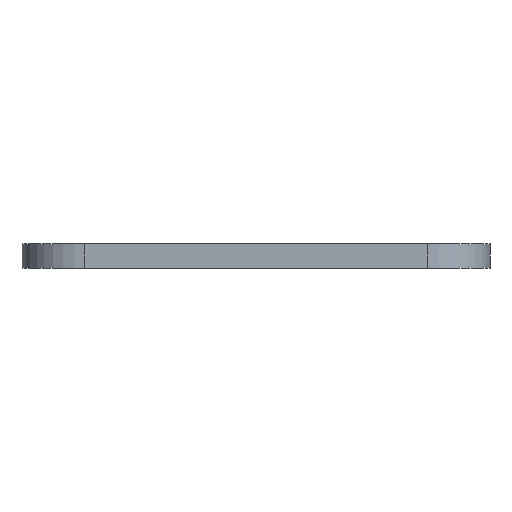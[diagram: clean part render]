
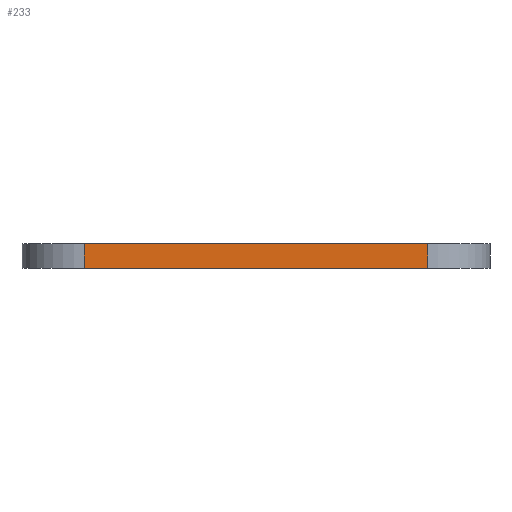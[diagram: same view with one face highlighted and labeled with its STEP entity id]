
A CAD part, front view. The second image highlights one B-rep face of the part: STEP entity #233.
In plain terms, the highlighted planar face has unit normal (0, -1, 0).
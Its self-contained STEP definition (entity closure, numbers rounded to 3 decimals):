
#14 = CARTESIAN_POINT ( 'NONE',  ( -35., 0., 4. ) ) ;
#56 = DIRECTION ( 'NONE',  ( 1., 0., 0. ) ) ;
#57 = VECTOR ( 'NONE', #56, 1000. ) ;
#71 = LINE ( 'NONE', #14, #57 ) ;
#124 = VERTEX_POINT ( 'NONE', #398 ) ;
#144 = VERTEX_POINT ( 'NONE', #568 ) ;
#149 = VERTEX_POINT ( 'NONE', #531 ) ;
#162 = EDGE_CURVE ( 'NONE', #149, #192, #71, .T. ) ;
#192 = VERTEX_POINT ( 'NONE', #599 ) ;
#203 = EDGE_CURVE ( 'NONE', #124, #144, #758, .T. ) ;
#218 = ORIENTED_EDGE ( 'NONE', *, *, #226, .T. ) ;
#226 = EDGE_CURVE ( 'NONE', #149, #124, #774, .T. ) ;
#227 = ORIENTED_EDGE ( 'NONE', *, *, #234, .F. ) ;
#230 = EDGE_LOOP ( 'NONE', ( #297, #227, #236, #218 ) ) ;
#233 = ADVANCED_FACE ( 'NONE', ( #776 ), #777, .F. ) ;
#234 = EDGE_CURVE ( 'NONE', #192, #144, #770, .T. ) ;
#236 = ORIENTED_EDGE ( 'NONE', *, *, #162, .F. ) ;
#297 = ORIENTED_EDGE ( 'NONE', *, *, #203, .T. ) ;
#398 = CARTESIAN_POINT ( 'NONE',  ( -35., 0., 0. ) ) ;
#531 = CARTESIAN_POINT ( 'NONE',  ( -35., 0., 4. ) ) ;
#568 = CARTESIAN_POINT ( 'NONE',  ( 20., 0., 0. ) ) ;
#599 = CARTESIAN_POINT ( 'NONE',  ( 20., 0., 4. ) ) ;
#727 = DIRECTION ( 'NONE',  ( 0., 0., -1. ) ) ;
#728 = VECTOR ( 'NONE', #727, 1000. ) ;
#756 = DIRECTION ( 'NONE',  ( 1., 0., 0. ) ) ;
#757 = VECTOR ( 'NONE', #756, 1000. ) ;
#758 = LINE ( 'NONE', #762, #757 ) ;
#762 = CARTESIAN_POINT ( 'NONE',  ( -35., 0., 0. ) ) ;
#765 = DIRECTION ( 'NONE',  ( 0., 0., 1. ) ) ;
#766 = DIRECTION ( 'NONE',  ( 0., 1., 0. ) ) ;
#767 = CARTESIAN_POINT ( 'NONE',  ( -35., 0., 4. ) ) ;
#769 = CARTESIAN_POINT ( 'NONE',  ( 20., 0., 4. ) ) ;
#770 = LINE ( 'NONE', #769, #728 ) ;
#772 = DIRECTION ( 'NONE',  ( 0., 0., -1. ) ) ;
#773 = VECTOR ( 'NONE', #772, 1000. ) ;
#774 = LINE ( 'NONE', #775, #773 ) ;
#775 = CARTESIAN_POINT ( 'NONE',  ( -35., 0., 4. ) ) ;
#776 = FACE_OUTER_BOUND ( 'NONE', #230, .T. ) ;
#777 = PLANE ( 'NONE',  #780 ) ;
#780 = AXIS2_PLACEMENT_3D ( 'NONE', #767, #766, #765 ) ;
